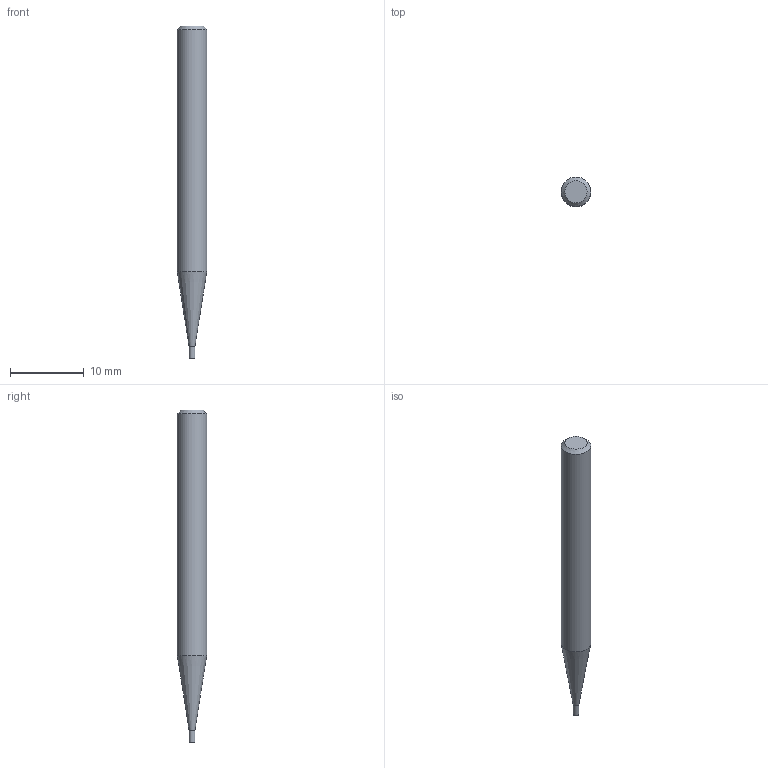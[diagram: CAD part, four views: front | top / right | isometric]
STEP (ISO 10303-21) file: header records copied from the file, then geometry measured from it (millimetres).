
FILE_DESCRIPTION((''),'2;1');
FILE_NAME('C:\Users\nsx150\AppData\Local\Temp\Mastercam 2021\W9Z147XDNF\TEMP.step','2021-04-08T14:29:46',(''),(''),'STEP Write','Mastercam 2021 ... CNC Software, Inc.','');
FILE_SCHEMA(('AUTOMOTIVE_DESIGN'));
Length unit declared in the file: millimetre
Products named in the file (1): None
Bounding box: 4 x 4 x 45 mm (x, y, z)
Volume: 470.3 mm3; surface area: 509.6 mm2
Topology: 2 solids, 2 shells, 8 faces, 10 edges, 6 vertices
Faces by surface type: plane 4, cylinder 2, cone 2
Full cylindrical faces by diameter (mm): 0.8 x1, 4 x1
Entity records: 190 total; most frequent: DIRECTION 32, CARTESIAN_POINT 22, AXIS2_PLACEMENT_3D 16, ORIENTED_EDGE 12, EDGE_LOOP 12, STYLED_ITEM 11, ADVANCED_FACE 8, VERTEX_POINT 6
